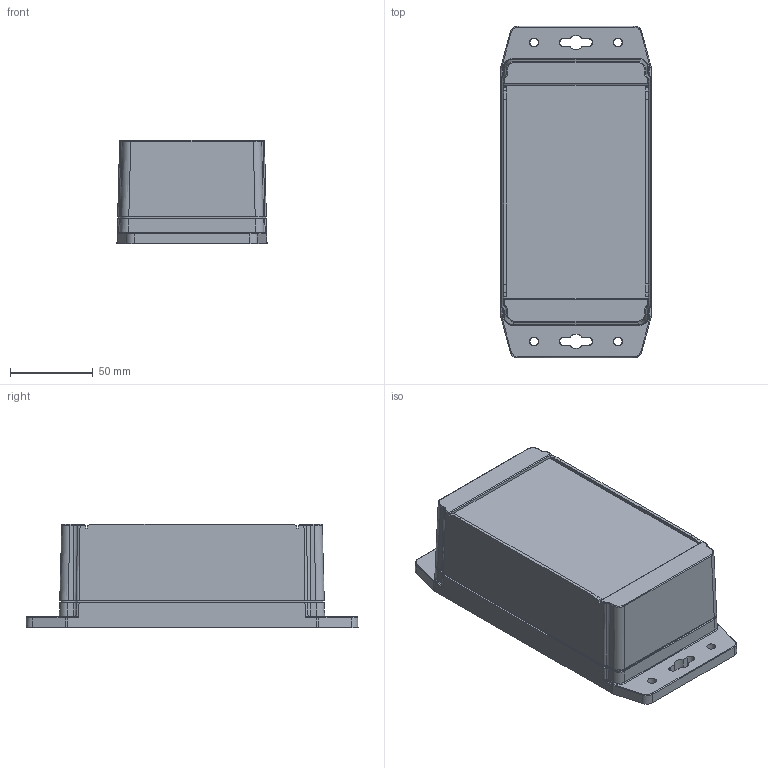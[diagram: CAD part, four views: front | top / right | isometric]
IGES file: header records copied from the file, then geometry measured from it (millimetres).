
Global section: file name: 1555JF42; native system: Autodesk Inventor 2016; preprocessor: unknown; author: tcook; date: 20160215.071330; units: inch
Bounding box: 90.79 x 200.79 x 62.5 mm (x, y, z)
Volume: 224330.4 mm3; surface area: 165481.1 mm2
Topology: 11 solids, 11 shells, 1367 faces, 3514 edges, 2243 vertices
Faces by surface type: bspline 1367
